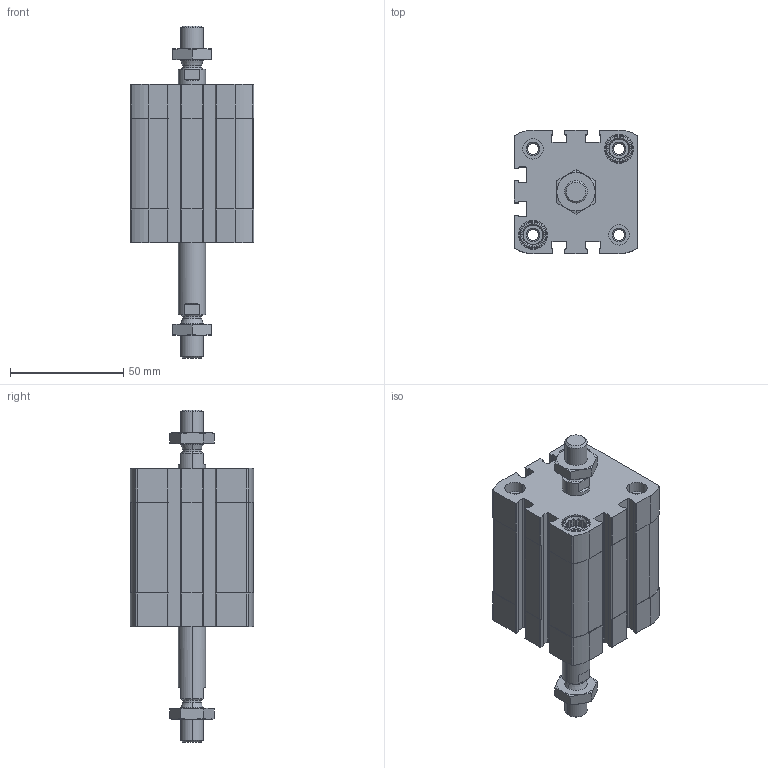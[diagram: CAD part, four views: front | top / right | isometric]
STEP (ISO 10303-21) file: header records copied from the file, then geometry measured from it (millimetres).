
FILE_DESCRIPTION (( 'STEP AP203' ), '1' );
FILE_NAME ('CCN40-25-P.STEP', '2020-06-22T18:51:59', ( '' ), ( '' ), 'SwSTEP 2.0', 'SolidWorks 2019', '' );
FILE_SCHEMA (( 'CONFIG_CONTROL_DESIGN' ));
Length unit declared in the file: millimetre
Products named in the file (1): CCN40-25-P
Bounding box: 54.5 x 54.5 x 146.6 mm (x, y, z)
Volume: 160278.4 mm3; surface area: 51219.4 mm2
Topology: 4 solids, 4 shells, 536 faces, 1418 edges, 922 vertices
Faces by surface type: plane 288, cylinder 180, cone 60, torus 8
Entity records: 17391 total; most frequent: CARTESIAN_POINT 3745, DIRECTION 2902, ORIENTED_EDGE 2836, EDGE_CURVE 1418, AXIS2_PLACEMENT_3D 1071, VERTEX_POINT 922, LINE 760, VECTOR 760
